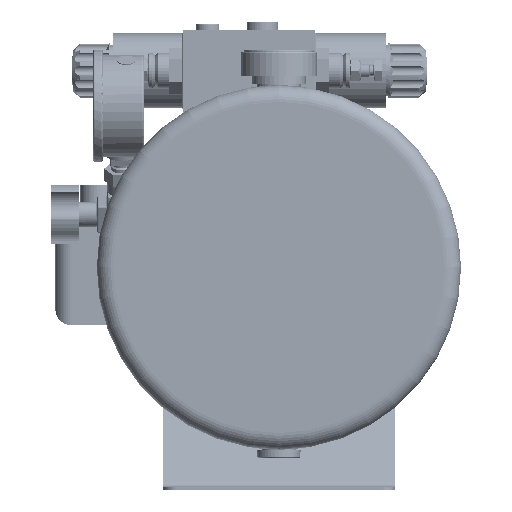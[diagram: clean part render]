
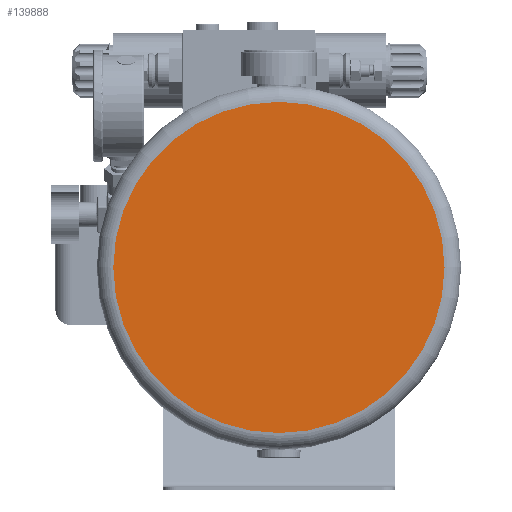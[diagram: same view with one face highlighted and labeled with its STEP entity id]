
A CAD part, left-side view. The second image highlights one B-rep face of the part: STEP entity #139888.
In plain terms, the highlighted planar face has unit normal (-1, 0, 0).
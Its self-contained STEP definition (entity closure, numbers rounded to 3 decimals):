
#3048=PLANE('',#151520);
#12543=FACE_OUTER_BOUND('',#20528,.T.);
#20528=EDGE_LOOP('',(#106234,#106235));
#31386=CIRCLE('',#151415,100.);
#31387=CIRCLE('',#151416,100.);
#58941=VERTEX_POINT('',#404451);
#58942=VERTEX_POINT('',#404452);
#75869=EDGE_CURVE('',#58941,#58942,#31386,.T.);
#75870=EDGE_CURVE('',#58942,#58941,#31387,.T.);
#106234=ORIENTED_EDGE('',*,*,#75869,.T.);
#106235=ORIENTED_EDGE('',*,*,#75870,.T.);
#139888=ADVANCED_FACE('',(#12543),#3048,.T.);
#151415=AXIS2_PLACEMENT_3D('',#404453,#177457,#177458);
#151416=AXIS2_PLACEMENT_3D('',#404454,#177459,#177460);
#151520=AXIS2_PLACEMENT_3D('',#404689,#177720,#177721);
#177457=DIRECTION('center_axis',(-1.,0.,0.));
#177458=DIRECTION('ref_axis',(0.,1.,0.));
#177459=DIRECTION('center_axis',(-1.,0.,0.));
#177460=DIRECTION('ref_axis',(0.,1.,0.));
#177720=DIRECTION('center_axis',(-1.,0.,0.));
#177721=DIRECTION('ref_axis',(0.,1.,0.));
#404451=CARTESIAN_POINT('',(-437.,-546.581,0.));
#404452=CARTESIAN_POINT('',(-437.,-746.581,0.));
#404453=CARTESIAN_POINT('Origin',(-437.,-646.581,0.));
#404454=CARTESIAN_POINT('Origin',(-437.,-646.581,0.));
#404689=CARTESIAN_POINT('Origin',(-437.,-646.581,-110.));
